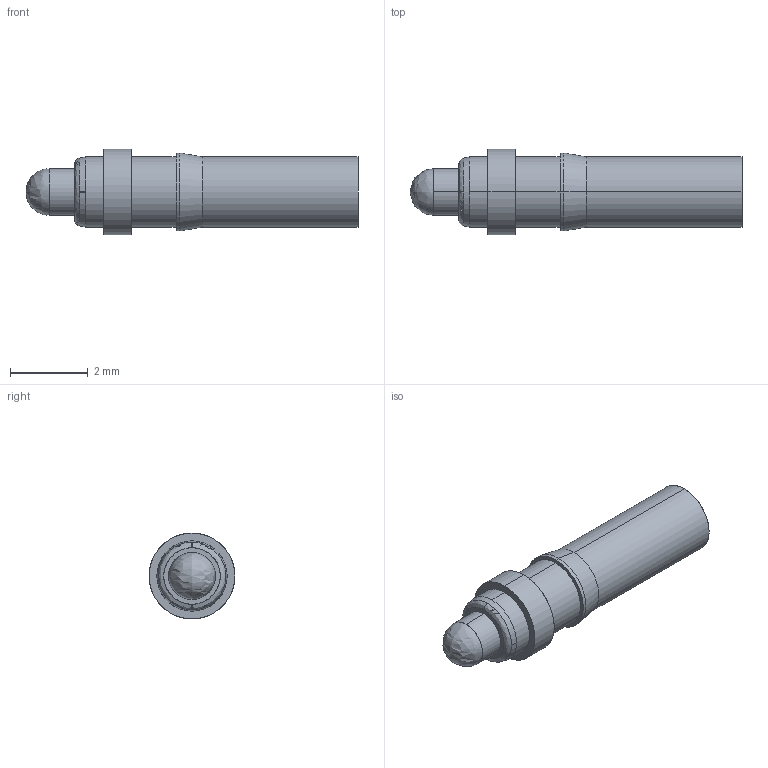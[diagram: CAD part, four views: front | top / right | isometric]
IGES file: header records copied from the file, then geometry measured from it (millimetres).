
Start section: SolidWorks IGES file using analytic representation for surfaces
Global section: file name: F:\OneDrive\Desktop\Coda\28.6\Front Fitment Completed\PD17 Series RTP\PD17JS.IGS; native system: SolidWorks 2021; preprocessor: SolidWorks 2021; author: Georg; date: 210714.160345; units: millimetre
Bounding box: 8.52 x 2.2 x 2.2 mm (x, y, z)
Surface area: 59.4 mm2 (no closed solid volume)
Topology: 0 solids, 0 shells, 28 faces, 372 edges, 368 vertices
Faces by surface type: revolution 20, bspline 8
